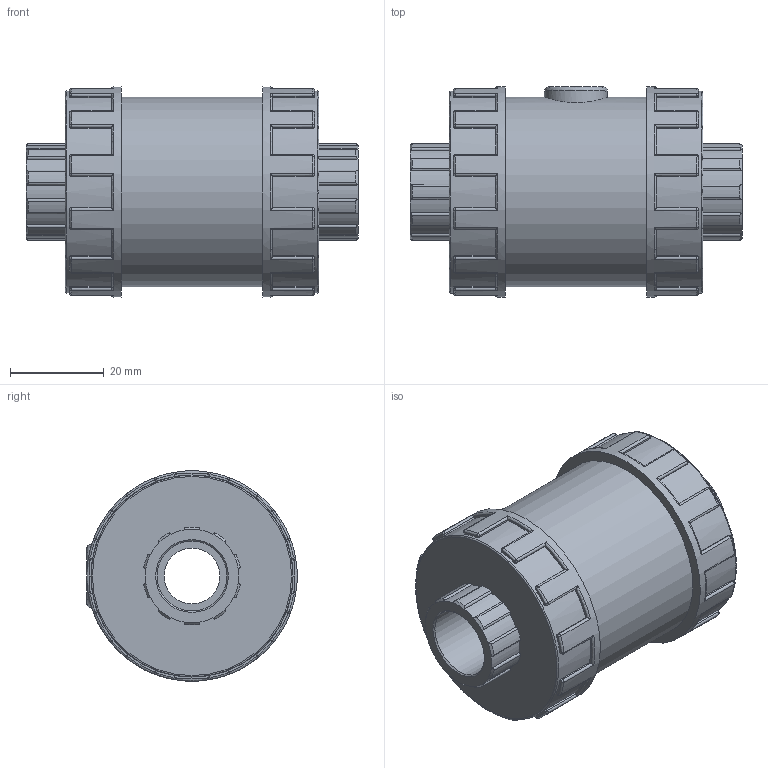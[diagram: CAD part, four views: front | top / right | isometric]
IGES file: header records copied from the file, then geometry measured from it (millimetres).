
Global section: file name: 116410003.ipt; native system: Autodesk Inventor 2015; preprocessor: unknown; author: KIM; date: 20171207.170703; units: millimetre
Bounding box: 71 x 45 x 45 mm (x, y, z)
Volume: 71873.5 mm3; surface area: 15087.3 mm2
Topology: 1 solids, 1 shells, 411 faces, 1033 edges, 630 vertices
Faces by surface type: cylinder 182, plane 105, revolution 56, sphere 48, cone 20
Full cylindrical faces by diameter (mm): 13.5 x1, 40.5 x1, 43.2 x2, 45 x2
